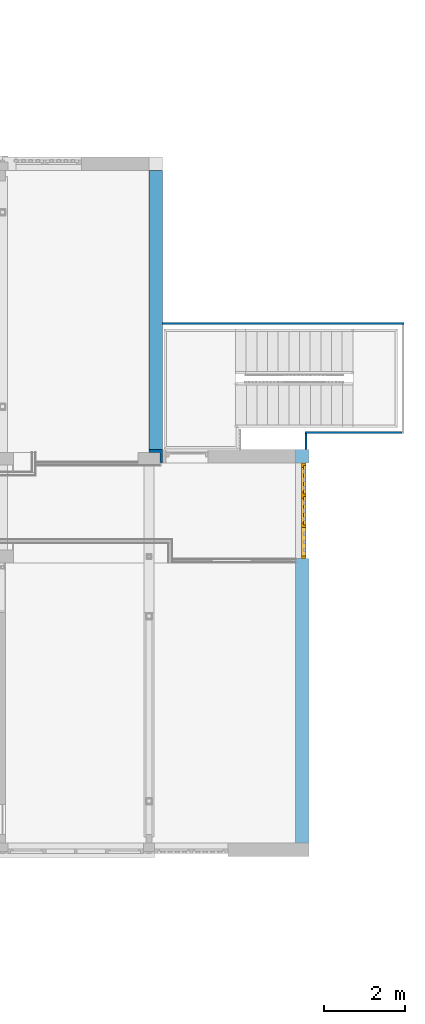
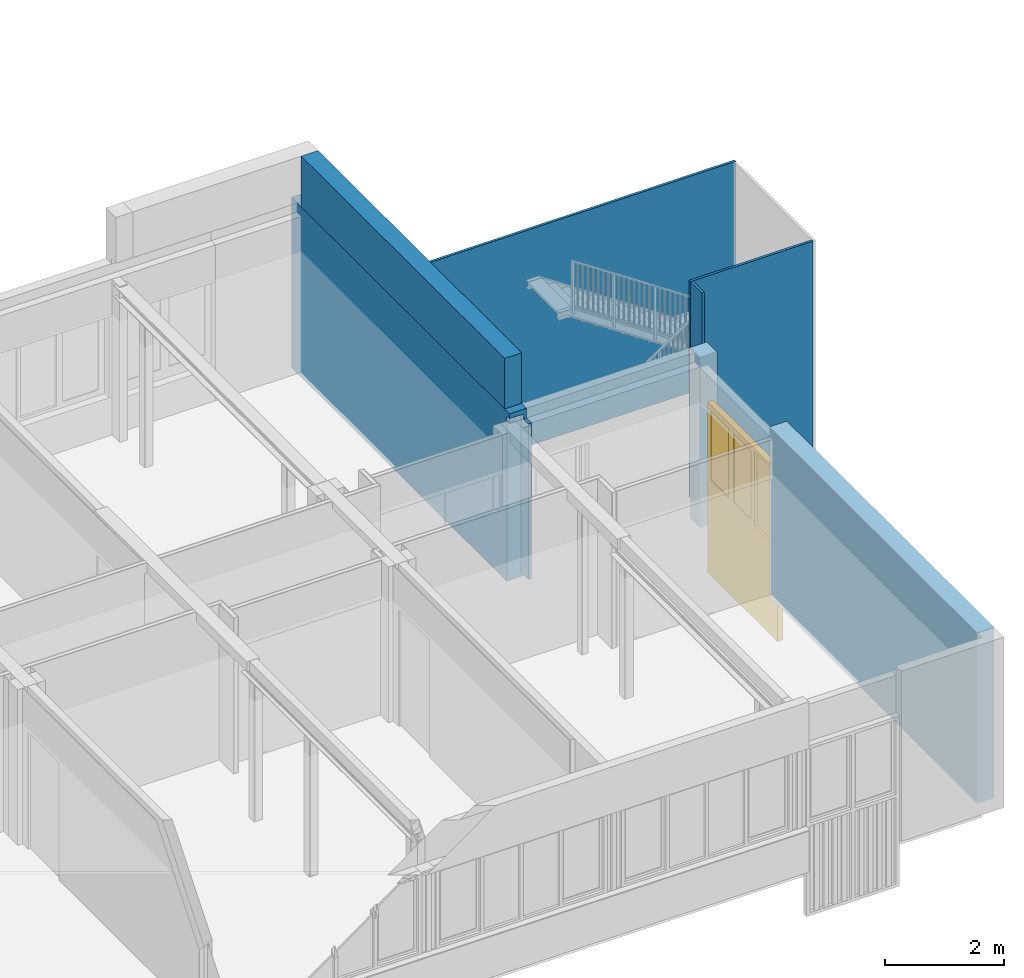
# One storey, part 68 of 117: 5 walls, 1 window, 1 opening, plus 1 element that does not belong to this part.
"""IFC2X3 building model written with IfcOpenShell, lengths in millimetres."""

import ifcopenshell
import ifcopenshell.guid

model = None  # the IFC model being written
_history = None  # IfcOwnerHistory: only IFC2X3 demands one
_inside = {}  # id of a spatial element -> (the spatial element, [elements in it])
_under = {}  # id of a project, library or spatial element -> (it, [spatial elements below it])
_declared = {}  # id of a project -> (the project, [libraries it declares])
_typed = {}  # id of a type object -> (the type object, [elements of that type])
_made_of = {}  # id of a material, layer set ... -> (it, [elements and type objects made of it])


def new_model(schema):
    """Start an empty IFC model of exactly this schema.

    Asked for "IFC4X3", IfcOpenShell would pick the latest addendum, in which some entities
    have other attributes; the version numbers below select the first issue.
    IFC2X3 requires an IfcOwnerHistory on every rooted entity: one is made here for all.
    """
    global model, _history
    if schema == "IFC4X3":
        model = ifcopenshell.file(schema_version=(4, 3, 0, 0))
    else:
        model = ifcopenshell.file(schema=schema)
    _inside.clear()
    _under.clear()
    _declared.clear()
    _typed.clear()
    _made_of.clear()
    _history = None
    if model.schema == "IFC2X3":
        org = make("IfcOrganization", Name="unknown")
        user = make(
            "IfcPersonAndOrganization",
            ThePerson=make("IfcPerson", FamilyName="unknown"),
            TheOrganization=org,
        )
        app = make(
            "IfcApplication",
            ApplicationDeveloper=org,
            Version="unknown",
            ApplicationFullName="unknown",
            ApplicationIdentifier="unknown",
        )
        _history = make(
            "IfcOwnerHistory",
            OwningUser=user,
            OwningApplication=app,
            ChangeAction="ADDED",
            CreationDate=0,
        )
    return model


def make(cls, **values):
    """One entity of the class cls with the attributes given. An attribute that is None is left unset."""
    return model.create_entity(
        cls, **{name: value for name, value in values.items() if value is not None}
    )


def entity(cls, *values):
    """Any entity or typed value of the class cls, its attributes in the order of the schema. None: left unset."""
    e = model.create_entity(cls)
    for i, value in enumerate(values):
        if value is not None:
            e[i] = value
    return e


def rooted(cls, **values):
    """An entity with a GlobalId (a new one), such as an element, a storey or a relation."""
    return make(cls, GlobalId=ifcopenshell.guid.new(), OwnerHistory=_history, **values)


def si_unit(unit_type, name, prefix=None):
    """IfcSIUnit, for example si_unit("LENGTHUNIT", "METRE", prefix="MILLI")."""
    return make("IfcSIUnit", UnitType=unit_type, Prefix=prefix, Name=name)


def converted_unit(unit_type, name, factor, base, dimensions=None, offset=None):
    """IfcConversionBasedUnit, such as the inch: factor (a typed value) times the base unit."""
    return make(
        "IfcConversionBasedUnit"
        if offset is None
        else "IfcConversionBasedUnitWithOffset",
        ConversionOffset=offset,
        Dimensions=None
        if dimensions is None
        else entity("IfcDimensionalExponents", *dimensions),
        UnitType=unit_type,
        Name=name,
        ConversionFactor=make(
            "IfcMeasureWithUnit", ValueComponent=factor, UnitComponent=base
        ),
    )


def derived_unit(unit_type, elements):
    """IfcDerivedUnit: a product of units, each with its exponent."""
    return make(
        "IfcDerivedUnit",
        Elements=[
            make("IfcDerivedUnitElement", Unit=unit, Exponent=power)
            for unit, power in elements
        ],
        UnitType=unit_type,
    )


def money_unit(currency):
    """IfcMonetaryUnit."""
    return make("IfcMonetaryUnit", Currency=currency)


def assignment(units):
    """IfcUnitAssignment: the units of a project."""
    return None if units is None else make("IfcUnitAssignment", Units=units)


def point(xyz):
    """IfcCartesianPoint."""
    return None if xyz is None else make("IfcCartesianPoint", Coordinates=xyz)


def direction(xyz):
    """IfcDirection."""
    return None if xyz is None else make("IfcDirection", DirectionRatios=xyz)


def frame(location, z_axis=None, x_axis=None):
    """IfcAxis2Placement3D, a coordinate frame: its origin and axes. An axis left out is left unset."""
    return make(
        "IfcAxis2Placement3D",
        Location=point(location),
        Axis=direction(z_axis),
        RefDirection=direction(x_axis),
    )


def origin_with_axes():
    """The frame at (0, 0, 0) with the z axis (0, 0, 1) and the x axis (1, 0, 0) written out."""
    return frame((0.0, 0.0, 0.0), z_axis=(0.0, 0.0, 1.0), x_axis=(1.0, 0.0, 0.0))


def place(relative_to, where):
    """IfcLocalPlacement: puts the frame where relative to a parent placement (None: the world)."""
    return make(
        "IfcLocalPlacement", PlacementRelTo=relative_to, RelativePlacement=where
    )


def context(
    kind, dimensions, precision=None, world=None, true_north=None, identifier=None
):
    """IfcGeometricRepresentationContext, for example the 3D "Model" context."""
    return make(
        "IfcGeometricRepresentationContext",
        ContextIdentifier=identifier,
        ContextType=kind,
        CoordinateSpaceDimension=dimensions,
        Precision=precision,
        WorldCoordinateSystem=world,
        TrueNorth=true_north,
    )


def subcontext(parent, identifier, kind, view, scale=None):
    """IfcGeometricRepresentationSubContext, for example "Body" below "Model"."""
    return make(
        "IfcGeometricRepresentationSubContext",
        ContextIdentifier=identifier,
        ContextType=kind,
        ParentContext=parent,
        TargetScale=scale,
        TargetView=view,
    )


def project(units=None, contexts=None):
    """IfcProject with its units and contexts."""
    return rooted(
        "IfcProject",
        Name="project",
        RepresentationContexts=contexts,
        UnitsInContext=assignment(units),
    )


def spatial(cls, under=None, at=None, **own):
    """A site, building, storey or space (cls), placed at a placement, below another one or the project."""
    s = rooted(cls, ObjectPlacement=at, **own)
    if under is not None:
        _under.setdefault(under.id(), (under, []))[1].append(s)
    return s


def faces_of(points, faces, orient=None, outer=None):
    """IfcFace entities. A face is a list of loops; a loop is a list of indices into points, from 0.

    orient and outer hold one flag for each loop. By default every Orientation is true, the
    first loop of a face is its IfcFaceOuterBound and the others are IfcFaceBound.
    """
    made = []
    for i, loops in enumerate(faces):
        bounds = []
        for j, loop in enumerate(loops):
            is_outer = j == 0 if outer is None else outer[i][j]
            bounds.append(
                make(
                    "IfcFaceOuterBound" if is_outer else "IfcFaceBound",
                    Bound=make("IfcPolyLoop", Polygon=[points[k] for k in loop]),
                    Orientation=True if orient is None else orient[i][j],
                )
            )
        made.append(make("IfcFace", Bounds=bounds))
    return made


def open_shell(faces, orient=None, outer=None):
    """The faces of one IfcOpenShell. surface_model builds it on its shared points."""
    return ("IfcOpenShell", faces, orient, outer)


def faceted_brep(points, faces, orient=None, outer=None, voids=None):
    """IfcFacetedBrep: a solid bounded by flat faces; with voids (closed shells), ...WithVoids."""
    shared = [point(p) for p in points]
    hull = make("IfcClosedShell", CfsFaces=faces_of(shared, faces, orient, outer))
    if voids is None:
        return make("IfcFacetedBrep", Outer=hull)
    return make(
        "IfcFacetedBrepWithVoids",
        Outer=hull,
        Voids=[
            make(cls, CfsFaces=faces_of(shared, fs, o, b)) for cls, fs, o, b in voids
        ],
    )


def surface_model(cls, points, shells):
    """IfcFaceBasedSurfaceModel or IfcShellBasedSurfaceModel (cls): surfaces that need not close."""
    shared = [point(p) for p in points]
    made = [make(c, CfsFaces=faces_of(shared, fs, o, b)) for c, fs, o, b in shells]
    if cls == "IfcFaceBasedSurfaceModel":
        return make(cls, FbsmFaces=made)
    return make(cls, SbsmBoundary=made)


def shape(context_of_items, identifier, shape_type, items):
    """IfcShapeRepresentation: the items that make up one representation, for example the "Body"."""
    return make(
        "IfcShapeRepresentation",
        ContextOfItems=context_of_items,
        RepresentationIdentifier=identifier,
        RepresentationType=shape_type,
        Items=items,
    )


def material(Name=None, Category=None):
    """IfcMaterial."""
    return make("IfcMaterial", Name=Name, Category=Category)


def made_of(thing, what):
    """Note that an element or type object is made of a material, layer set ...; save() writes the relation."""
    if what is not None:
        _made_of.setdefault(what.id(), (what, []))[1].append(thing)
    return thing


def type_object(cls, material=None, **own):
    """A type object (cls), such as IfcWallType, which elements share."""
    return made_of(rooted(cls, **own), material)


def element(
    cls,
    number,
    at=None,
    inside=None,
    cuts=None,
    type_object=None,
    material=None,
    context=None,
    identifier="Body",
    shape_type=None,
    held_by="IfcProductDefinitionShape",
    body=None,
    shapes=None,
    **own,
):
    """One element of the class cls, such as IfcWall. Its Tag is "e" and its number.

    at: its placement. inside: the storey or other place that contains it. cuts: it is an
    opening in that element (IfcRelVoidsElement). A single representation is given by context,
    identifier, shape_type and body (its items); several are given by shapes. held_by: the class
    of the entity that holds the representations. save() writes the other relations.
    """
    e = rooted(cls, Tag="e%d" % number, ObjectPlacement=at, **own)
    if body is not None:
        shapes = [shape(context, identifier, shape_type, body)]
    if shapes is not None:
        e.Representation = make(held_by, Representations=shapes)
    if inside is not None:
        _inside.setdefault(inside.id(), (inside, []))[1].append(e)
    if cuts is not None:
        rooted(
            "IfcRelVoidsElement", RelatingBuildingElement=cuts, RelatedOpeningElement=e
        )
    if type_object is not None:
        _typed.setdefault(type_object.id(), (type_object, []))[1].append(e)
    return made_of(e, material)


def fill(opening, filler):
    """IfcRelFillsElement: the door or window that sits in an opening."""
    return rooted(
        "IfcRelFillsElement",
        RelatingOpeningElement=opening,
        RelatedBuildingElement=filler,
    )


def aggregate(whole, parts):
    """IfcRelAggregates: a whole, such as a stair, and the parts it consists of."""
    return rooted("IfcRelAggregates", RelatingObject=whole, RelatedObjects=parts)


def save(model, path):
    """Write the relations noted so far, then the file.

    IfcRelAggregates (storeys below a building ...), IfcRelContainedInSpatialStructure (elements
    in a storey), IfcRelDefinesByType, IfcRelAssociatesMaterial and IfcRelDeclares: one each for
    every whole, place, type object, material and project.
    """
    for whole, parts in _under.values():
        aggregate(whole, parts)
    for where, things in _inside.values():
        rooted(
            "IfcRelContainedInSpatialStructure",
            RelatedElements=things,
            RelatingStructure=where,
        )
    for kind, things in _typed.values():
        rooted("IfcRelDefinesByType", RelatedObjects=things, RelatingType=kind)
    for what, things in _made_of.values():
        rooted("IfcRelAssociatesMaterial", RelatedObjects=things, RelatingMaterial=what)
    for by, libraries in _declared.values():
        rooted("IfcRelDeclares", RelatingContext=by, RelatedDefinitions=libraries)
    model.write(path)


model = new_model("IFC2X3")

# Units and contexts
model_context = context("Model", 3, precision=0.01, world=origin_with_axes(), true_north=direction((0.0, 1.0)))
body_context = subcontext(model_context, "Body", "Model", "MODEL_VIEW")
ifc_project = project(units=[si_unit("LENGTHUNIT", "METRE", prefix="MILLI"), si_unit("AREAUNIT", "SQUARE_METRE"), si_unit("VOLUMEUNIT", "CUBIC_METRE"), converted_unit("PLANEANGLEUNIT", "DEGREE", entity("IfcPlaneAngleMeasure", 0.0174532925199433), si_unit("PLANEANGLEUNIT", "RADIAN"), dimensions=[0, 0, 0, 0, 0, 0, 0]), money_unit("EUR"), converted_unit("TIMEUNIT", "Year", entity("IfcTimeMeasure", 31557600.0), si_unit("TIMEUNIT", "SECOND"), dimensions=[0, 0, 1, 0, 0, 0, 0]), si_unit("MASSUNIT", "GRAM", prefix="KILO"), si_unit("THERMODYNAMICTEMPERATUREUNIT", "DEGREE_CELSIUS"), si_unit("LUMINOUSINTENSITYUNIT", "LUMEN"), si_unit("ENERGYUNIT", "JOULE", prefix="MEGA"), derived_unit("THERMALCONDUCTANCEUNIT", [(si_unit("POWERUNIT", "WATT"), 1), (si_unit("LENGTHUNIT", "METRE"), -1), (si_unit("THERMODYNAMICTEMPERATUREUNIT", "KELVIN"), -1)]), derived_unit("SPECIFICHEATCAPACITYUNIT", [(si_unit("ENERGYUNIT", "JOULE"), 1), (si_unit("MASSUNIT", "GRAM", prefix="KILO"), -1), (si_unit("THERMODYNAMICTEMPERATUREUNIT", "KELVIN"), -1)]), derived_unit("MASSDENSITYUNIT", [(si_unit("MASSUNIT", "GRAM", prefix="KILO"), 1), (si_unit("VOLUMEUNIT", "CUBIC_METRE"), -1)])], contexts=[model_context])

# Site, building, storey
site_placement = place(None, origin_with_axes())
site = spatial("IfcSite", under=ifc_project, at=site_placement, Name="Site", CompositionType="ELEMENT")
building_placement = place(site_placement, origin_with_axes())
building = spatial("IfcBuilding", under=site, at=building_placement, Name="Naam gebouw", CompositionType="ELEMENT")
storey_placement = place(building_placement, frame((0.0, 0.0, 4150.0), z_axis=(0.0, 0.0, 1.0), x_axis=(1.0, 0.0, 0.0)))
storey = spatial("IfcBuildingStorey", under=building, at=storey_placement, Name="1e verdieping N", CompositionType="ELEMENT", Elevation=4150.0)

# Wall
ifc_material_1 = material(Name="ALG - CONSTRUCTIEF")
wall_type_1 = type_object("IfcWallType", Name="ALG - CONSTRUCTIEF 330", PredefinedType="NOTDEFINED")
wall_1_placement = place(storey_placement, frame((54330.0, 27505.9124251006, 3400.0), z_axis=(0.0, 0.0, 1.0), x_axis=(0.0, -1.0, 0.0)))
element("IfcWall", 1, at=wall_1_placement, inside=storey, type_object=wall_type_1, material=ifc_material_1, Name="_Wand-x", context=body_context, shape_type="Brep", body=[
    faceted_brep([(0.0, -329.9999999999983, 1039.999999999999), (6850.000000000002, -329.9999999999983, 1039.999999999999), (6850.000000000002, 0.0, 1039.999999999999), (0.0, 0.0, 1039.999999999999), (0.0, -329.9999999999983, 0.0), (6850.000000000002, -329.9999999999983, 0.0), (6850.000000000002, 0.0, 0.0), (0.0, 0.0, 0.0)], [[[0, 1, 2, 3]], [[4, 5, 1, 0]], [[6, 2, 1, 5]], [[3, 2, 6, 7]], [[7, 4, 0, 3]], [[7, 6, 5, 4]]]),
])

# Wall, opening, window
wall_2_placement = place(storey_placement, frame((57599.99999999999, 20655.9124251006, -99.99999999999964), z_axis=(0.0, 0.0, 1.0), x_axis=(0.0, -1.0, 0.0)))
wall_2 = element("IfcWall", 2, at=wall_2_placement, inside=storey, type_object=wall_type_1, material=ifc_material_1, Name="_Wand-x", context=body_context, shape_type="Brep", body=[
    faceted_brep([(2684.999999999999, 259.999999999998, 0.0), (2684.999999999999, 0.0, 0.0), (2684.999999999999, 0.0, 3500.0), (2684.999999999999, 259.999999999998, 3500.0), (2684.999999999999, 329.9999999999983, 3500.0), (2684.999999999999, 329.9999999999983, 0.0), (9664.999999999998, 329.9999999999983, 0.0), (9664.999999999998, 0.0, 0.0), (9664.999999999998, 0.0, 3500.0), (9664.999999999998, 329.9999999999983, 3500.0)], [[[0, 1, 2, 3, 4, 5]], [[1, 0, 5, 6, 7]], [[2, 1, 7, 8]], [[3, 2, 8, 9, 4]], [[4, 9, 6, 5]], [[6, 9, 8, 7]]]),
    faceted_brep([(330.0000000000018, 0.0, 3500.0), (330.0000000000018, 259.999999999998, 3500.0), (330.0000000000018, 329.9999999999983, 3500.0), (0.0, 329.9999999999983, 3500.0), (0.0, 0.0, 3500.0), (330.0000000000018, 0.0, 0.0), (330.0000000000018, 259.999999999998, 0.0), (330.0000000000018, 329.9999999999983, 0.0), (0.0, 329.9999999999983, 0.0), (0.0, 0.0, 0.0)], [[[0, 1, 2, 3, 4]], [[1, 0, 5, 6, 7, 2]], [[7, 8, 3, 2]], [[8, 9, 4, 3]], [[5, 0, 4, 9]], [[6, 5, 9, 8, 7]]]),
])
opening_placement = place(wall_2_placement, frame((1507.5, 0.0, -959.9999999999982), z_axis=(0.0, 0.0, 1.0), x_axis=(1.0, 0.0, 0.0)))
opening = element("IfcOpeningElement", 3, at=opening_placement, cuts=wall_2, Name="_Merk-039", context=body_context, shape_type="Brep", body=[
    faceted_brep([(-1177.499999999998, 259.999999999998, 0.0), (-1177.499999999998, 259.999999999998, 4500.0), (-1177.499999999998, 330.999999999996, 4500.0), (-1177.499999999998, 330.999999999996, 0.0), (-1177.499999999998, -0.9999999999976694, 0.0), (-1177.499999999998, -0.9999999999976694, 4500.0), (1177.499999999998, 259.999999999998, 4500.0), (1177.499999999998, 330.999999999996, 4500.0), (1177.499999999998, -0.9999999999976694, 4500.0), (1177.499999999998, 330.999999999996, 0.0), (1177.499999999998, 259.999999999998, 0.0), (1177.499999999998, -0.9999999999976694, 0.0)], [[[0, 1, 2, 3]], [[1, 0, 4, 5]], [[6, 7, 2, 1, 5, 8]], [[7, 9, 3, 2]], [[0, 3, 9, 10, 11, 4]], [[5, 4, 11, 8]], [[6, 10, 9, 7]], [[10, 6, 8, 11]]]),
])
window_style = type_object("IfcWindowStyle", Name="R3 bl ol 26", ConstructionType="NOTDEFINED", OperationType="USERDEFINED", ParameterTakesPrecedence=False, Sizeable=False)
window_placement = place(opening_placement, frame((1177.499999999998, 0.0, 0.0), z_axis=(0.0, 0.0, 1.0), x_axis=(-1.0, 0.0, 0.0)))
window = element("IfcWindow", 4, at=window_placement, inside=storey, type_object=window_style, Name="_Merk-039", ObjectType="WINDOW", OverallHeight=3500.0, OverallWidth=2355.0, context=body_context, shape_type="SurfaceModel", body=[
    faceted_brep([(2304.999999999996, -146.0000000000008, 3433.0), (2304.999999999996, -200.0000000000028, 3433.0), (2287.999999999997, -200.0000000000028, 3433.0), (2287.999999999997, -260.0000000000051, 3433.0), (2354.999999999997, -260.0000000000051, 3433.0), (2354.999999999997, -146.0000000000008, 3433.0), (2304.999999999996, -146.0000000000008, 1893.000000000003), (2304.999999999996, -200.0000000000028, 1893.000000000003), (2287.999999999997, -200.0000000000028, 1910.000000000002), (2287.999999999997, -200.0000000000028, 1893.000000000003), (2287.999999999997, -259.999999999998, 1910.000000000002), (2287.999999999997, -259.999999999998, 1843.000000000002), (2287.999999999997, -259.999999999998, 66.99999999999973), (2354.999999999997, -259.999999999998, 66.99999999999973), (2354.999999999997, -146.0000000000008, 67.00000000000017), (2287.999999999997, -146.0000000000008, 67.00000000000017), (2287.999999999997, -146.0000000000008, 1843.000000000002), (2287.999999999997, -146.0000000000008, 1893.000000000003)], [[[0, 1, 2, 3, 4, 5]], [[1, 0, 6, 7]], [[8, 2, 1, 7, 9]], [[2, 8, 10, 3]], [[10, 11, 12, 13, 4, 3]], [[5, 4, 13, 14]], [[6, 0, 5, 14, 15, 16, 17]], [[6, 17, 9, 7]], [[9, 17, 16, 11, 10, 8]], [[15, 12, 11, 16]], [[14, 13, 12, 15]]]),
    faceted_brep([(829.6666666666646, -200.0000000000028, 3433.0), (812.6666666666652, -200.0000000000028, 3433.0), (812.6666666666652, -146.0000000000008, 3433.0), (762.6666666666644, -146.0000000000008, 3433.0), (762.6666666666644, -259.999999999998, 3433.0), (829.6666666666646, -259.999999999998, 3433.0), (829.6666666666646, -200.0000000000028, 1910.000000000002), (829.6666666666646, -200.0000000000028, 1893.000000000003), (812.6666666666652, -200.0000000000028, 1893.000000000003), (812.6666666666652, -146.0000000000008, 1893.000000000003), (829.6666666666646, -146.0000000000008, 1893.000000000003), (829.6666666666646, -146.0000000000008, 1843.000000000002), (829.6666666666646, -146.0000000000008, 67.00000000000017), (762.6666666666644, -146.0000000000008, 67.00000000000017), (762.6666666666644, -146.0000000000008, 1843.000000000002), (762.6666666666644, -146.0000000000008, 1910.000000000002), (762.6666666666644, -259.999999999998, 1910.000000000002), (829.6666666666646, -259.999999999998, 1843.000000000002), (829.6666666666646, -259.999999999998, 1910.000000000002), (762.6666666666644, -259.999999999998, 1843.000000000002), (762.6666666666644, -259.999999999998, 66.99999999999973), (829.6666666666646, -259.999999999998, 66.99999999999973)], [[[0, 1, 2, 3, 4, 5]], [[1, 0, 6, 7, 8]], [[9, 2, 1, 8]], [[9, 10, 11, 12, 13, 14, 15, 3, 2]], [[15, 16, 4, 3]], [[17, 18, 5, 4, 16, 19, 20, 21]], [[6, 0, 5, 18]], [[7, 6, 18, 17, 11, 10]], [[10, 9, 8, 7]], [[11, 17, 21, 12]], [[12, 21, 20, 13]], [[13, 20, 19, 14]], [[14, 19, 16, 15]]]),
    faceted_brep([(1592.333333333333, -200.0000000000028, 3433.0), (1575.333333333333, -200.0000000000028, 3433.0), (1575.333333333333, -146.0000000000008, 3433.0), (1542.333333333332, -146.0000000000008, 3433.0), (1542.333333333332, -200.0000000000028, 3433.0), (1525.333333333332, -200.0000000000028, 3433.0), (1525.333333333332, -259.999999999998, 3433.0), (1592.333333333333, -259.999999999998, 3433.0), (1592.333333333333, -200.0000000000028, 1910.000000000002), (1592.333333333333, -200.0000000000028, 1893.000000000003), (1575.333333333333, -200.0000000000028, 1893.000000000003), (1575.333333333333, -146.0000000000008, 1893.000000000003), (1592.333333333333, -146.0000000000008, 1893.000000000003), (1592.333333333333, -146.0000000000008, 1843.000000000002), (1592.333333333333, -146.0000000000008, 67.00000000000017), (1525.333333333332, -146.0000000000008, 67.00000000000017), (1525.333333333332, -146.0000000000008, 1843.000000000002), (1525.333333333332, -146.0000000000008, 1893.000000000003), (1542.333333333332, -146.0000000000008, 1893.000000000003), (1542.333333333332, -200.0000000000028, 1893.000000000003), (1525.333333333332, -200.0000000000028, 1910.000000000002), (1525.333333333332, -200.0000000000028, 1893.000000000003), (1525.333333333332, -259.999999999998, 1910.000000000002), (1525.333333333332, -259.999999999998, 1843.000000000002), (1525.333333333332, -259.999999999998, 66.99999999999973), (1592.333333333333, -259.999999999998, 66.99999999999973), (1592.333333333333, -259.999999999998, 1843.000000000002), (1592.333333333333, -259.999999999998, 1910.000000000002)], [[[0, 1, 2, 3, 4, 5, 6, 7]], [[1, 0, 8, 9, 10]], [[11, 2, 1, 10]], [[11, 12, 13, 14, 15, 16, 17, 18, 3, 2]], [[4, 3, 18, 19]], [[20, 5, 4, 19, 21]], [[5, 20, 22, 6]], [[7, 6, 22, 23, 24, 25, 26, 27]], [[8, 0, 7, 27]], [[9, 8, 27, 26, 13, 12]], [[12, 11, 10, 9]], [[13, 26, 25, 14]], [[14, 25, 24, 15]], [[15, 24, 23, 16]], [[21, 17, 16, 23, 22, 20]], [[18, 17, 21, 19]]]),
    faceted_brep([(1525.333333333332, -200.0000000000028, 1910.000000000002), (829.6666666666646, -200.0000000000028, 1910.000000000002), (829.6666666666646, -259.999999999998, 1910.000000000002), (1525.333333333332, -259.999999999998, 1910.000000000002), (829.6666666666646, -200.0000000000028, 1893.000000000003), (1525.333333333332, -200.0000000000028, 1893.000000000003), (829.6666666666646, -146.0000000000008, 1893.000000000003), (829.6666666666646, -146.0000000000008, 1843.000000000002), (829.6666666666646, -259.999999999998, 1843.000000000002), (1525.333333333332, -259.999999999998, 1843.000000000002), (1525.333333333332, -146.0000000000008, 1843.000000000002), (1525.333333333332, -146.0000000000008, 1893.000000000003)], [[[0, 1, 2, 3]], [[4, 1, 0, 5]], [[4, 6, 7, 8, 2, 1]], [[2, 8, 9, 3]], [[5, 0, 3, 9, 10, 11]], [[11, 6, 4, 5]], [[6, 11, 10, 7]], [[10, 9, 8, 7]]]),
    faceted_brep([(2287.999999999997, -200.0000000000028, 1910.000000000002), (1592.333333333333, -200.0000000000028, 1910.000000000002), (1592.333333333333, -259.999999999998, 1910.000000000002), (2287.999999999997, -259.999999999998, 1910.000000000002), (1592.333333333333, -200.0000000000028, 1893.000000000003), (2287.999999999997, -200.0000000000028, 1893.000000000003), (1592.333333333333, -146.0000000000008, 1893.000000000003), (1592.333333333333, -146.0000000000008, 1843.000000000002), (1592.333333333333, -259.999999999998, 1843.000000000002), (2287.999999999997, -259.999999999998, 1843.000000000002), (2287.999999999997, -146.0000000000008, 1843.000000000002), (2287.999999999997, -146.0000000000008, 1893.000000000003)], [[[0, 1, 2, 3]], [[4, 1, 0, 5]], [[4, 6, 7, 8, 2, 1]], [[9, 3, 2, 8]], [[5, 0, 3, 9, 10, 11]], [[11, 6, 4, 5]], [[6, 11, 10, 7]], [[10, 9, 8, 7]]]),
    faceted_brep([(2304.999999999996, -146.0000000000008, 3433.0), (2304.999999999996, -146.0000000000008, 3450.0), (1575.333333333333, -146.0000000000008, 3450.0), (1575.333333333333, -146.0000000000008, 3433.0), (1542.333333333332, -146.0000000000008, 3433.0), (1542.333333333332, -146.0000000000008, 3450.0), (812.6666666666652, -146.0000000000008, 3450.0), (812.6666666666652, -146.0000000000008, 3433.0), (762.6666666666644, -146.0000000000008, 3433.0), (67.00000000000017, -146.0000000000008, 3433.0), (0.0, -146.0000000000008, 3433.0), (0.0, -146.0000000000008, 3500.0), (2354.999999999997, -146.0000000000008, 3500.0), (2354.999999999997, -146.0000000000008, 3433.0), (2304.999999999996, -200.0000000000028, 3433.0), (2304.999999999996, -200.0000000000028, 3450.0), (1575.333333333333, -200.0000000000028, 3450.0), (1575.333333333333, -200.0000000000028, 3433.0), (1592.333333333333, -200.0000000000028, 3433.0), (1592.333333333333, -259.999999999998, 3433.0), (1525.333333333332, -259.999999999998, 3433.0), (1525.333333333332, -200.0000000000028, 3433.0), (1542.333333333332, -200.0000000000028, 3433.0), (1542.333333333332, -200.0000000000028, 3450.0), (812.6666666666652, -200.0000000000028, 3450.0), (812.6666666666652, -200.0000000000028, 3433.0), (829.6666666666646, -200.0000000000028, 3433.0), (829.6666666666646, -259.999999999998, 3433.0), (762.6666666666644, -259.999999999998, 3433.0), (67.00000000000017, -259.999999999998, 3433.0), (0.0, -259.999999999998, 3433.0), (0.0, -259.999999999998, 3500.0), (2354.999999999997, -260.0000000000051, 3500.0), (2354.999999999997, -260.0000000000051, 3433.0), (2287.999999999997, -260.0000000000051, 3433.0), (2287.999999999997, -200.0000000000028, 3433.0)], [[[0, 1, 2, 3, 4, 5, 6, 7, 8, 9, 10, 11, 12, 13]], [[1, 0, 14, 15]], [[2, 1, 15, 16]], [[3, 2, 16, 17]], [[17, 18, 19, 20, 21, 22, 4, 3]], [[5, 4, 22, 23]], [[6, 5, 23, 24]], [[7, 6, 24, 25]], [[25, 26, 27, 28, 8, 7]], [[8, 28, 29, 9]], [[9, 29, 30, 10]], [[10, 30, 31, 11]], [[11, 31, 32, 12]], [[12, 32, 33, 13]], [[14, 0, 13, 33, 34, 35]], [[18, 17, 16, 15, 14, 35]], [[18, 35, 34, 19]], [[20, 19, 34, 33, 32, 31, 30, 29, 28, 27]], [[26, 21, 20, 27]], [[26, 25, 24, 23, 22, 21]]]),
    faceted_brep([(67.00000000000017, -259.999999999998, 67.00000000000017), (0.0, -259.999999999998, 67.00000000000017), (0.0, -146.0000000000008, 67.00000000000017), (67.00000000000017, -146.0000000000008, 67.00000000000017), (67.00000000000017, -259.999999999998, 1843.000000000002), (67.00000000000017, -259.999999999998, 1910.000000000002), (67.00000000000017, -259.999999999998, 3433.0), (0.0, -259.999999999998, 3433.0), (0.0, -146.0000000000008, 3433.0), (67.00000000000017, -146.0000000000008, 3433.0), (67.00000000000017, -146.0000000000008, 1910.000000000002), (67.00000000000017, -146.0000000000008, 1843.000000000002)], [[[0, 1, 2, 3]], [[0, 4, 5, 6, 7, 1]], [[1, 7, 8, 2]], [[3, 2, 8, 9, 10, 11]], [[4, 0, 3, 11]], [[5, 4, 11, 10]], [[6, 5, 10, 9]], [[7, 6, 9, 8]]]),
    faceted_brep([(762.6666666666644, -259.999999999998, 1910.000000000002), (762.6666666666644, -259.999999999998, 1843.000000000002), (762.6666666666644, -146.0000000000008, 1843.000000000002), (762.6666666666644, -146.0000000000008, 1910.000000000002), (67.00000000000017, -259.999999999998, 1910.000000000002), (67.00000000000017, -259.999999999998, 1843.000000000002), (67.00000000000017, -146.0000000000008, 1843.000000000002), (67.00000000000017, -146.0000000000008, 1910.000000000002)], [[[0, 1, 2, 3]], [[0, 4, 5, 1]], [[1, 5, 6, 2]], [[3, 2, 6, 7]], [[4, 0, 3, 7]], [[5, 4, 7, 6]]]),
    faceted_brep([(2287.999999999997, -259.999999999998, 67.00000000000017), (2354.999999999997, -259.999999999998, 67.00000000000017), (2354.999999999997, -146.0000000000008, 67.00000000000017), (2287.999999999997, -146.0000000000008, 67.00000000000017), (1592.333333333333, -259.999999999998, 67.00000000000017), (1525.333333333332, -259.999999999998, 67.00000000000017), (829.6666666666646, -259.999999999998, 67.00000000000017), (762.6666666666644, -259.999999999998, 67.00000000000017), (67.00000000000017, -259.999999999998, 67.00000000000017), (0.0, -259.999999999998, 67.00000000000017), (0.0, -259.999999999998, 0.0), (2354.999999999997, -259.999999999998, 0.0), (2354.999999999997, -146.0000000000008, 0.0), (0.0, -146.0000000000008, 0.0), (0.0, -146.0000000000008, 67.00000000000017), (67.00000000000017, -146.0000000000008, 67.00000000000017), (762.6666666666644, -146.0000000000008, 67.00000000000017), (829.6666666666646, -146.0000000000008, 67.00000000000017), (1525.333333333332, -146.0000000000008, 67.00000000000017), (1592.333333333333, -146.0000000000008, 67.00000000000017)], [[[0, 1, 2, 3]], [[0, 4, 5, 6, 7, 8, 9, 10, 11, 1]], [[1, 11, 12, 2]], [[3, 2, 12, 13, 14, 15, 16, 17, 18, 19]], [[4, 0, 3, 19]], [[5, 4, 19, 18]], [[6, 5, 18, 17]], [[7, 6, 17, 16]], [[8, 7, 16, 15]], [[9, 8, 15, 14]], [[10, 9, 14, 13]], [[11, 10, 13, 12]]]),
    faceted_brep([(2237.999999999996, -200.0000000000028, 3383.0), (2304.999999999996, -200.0000000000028, 3383.0), (2304.999999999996, -146.0000000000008, 3383.0), (2237.999999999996, -146.0000000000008, 3383.0), (2237.999999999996, -200.0000000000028, 1960.000000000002), (2304.999999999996, -200.0000000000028, 1960.000000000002), (2304.999999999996, -146.0000000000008, 1960.000000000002), (2237.999999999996, -146.0000000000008, 1960.000000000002)], [[[0, 1, 2, 3]], [[0, 4, 5, 1]], [[1, 5, 6, 2]], [[3, 2, 6, 7]], [[4, 0, 3, 7]], [[5, 4, 7, 6]]]),
    faceted_brep([(1642.333333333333, -200.0000000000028, 1960.000000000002), (1575.333333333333, -200.0000000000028, 1960.000000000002), (1575.333333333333, -146.0000000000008, 1960.000000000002), (1642.333333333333, -146.0000000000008, 1960.000000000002), (1642.333333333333, -200.0000000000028, 3383.0), (1575.333333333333, -200.0000000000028, 3383.0), (1575.333333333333, -146.0000000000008, 3383.0), (1642.333333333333, -146.0000000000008, 3383.0)], [[[0, 1, 2, 3]], [[0, 4, 5, 1]], [[1, 5, 6, 2]], [[3, 2, 6, 7]], [[4, 0, 3, 7]], [[5, 4, 7, 6]]]),
    faceted_brep([(1575.333333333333, -200.0000000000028, 1893.000000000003), (1575.333333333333, -200.0000000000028, 1960.000000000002), (1575.333333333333, -146.0000000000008, 1960.000000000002), (1575.333333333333, -146.0000000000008, 1893.000000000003), (2304.999999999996, -200.0000000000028, 1893.000000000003), (2304.999999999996, -200.0000000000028, 1960.000000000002), (2237.999999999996, -200.0000000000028, 1960.000000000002), (1642.333333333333, -200.0000000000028, 1960.000000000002), (1642.333333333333, -146.0000000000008, 1960.000000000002), (2237.999999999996, -146.0000000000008, 1960.000000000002), (2304.999999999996, -146.0000000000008, 1960.000000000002), (2304.999999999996, -146.0000000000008, 1893.000000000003)], [[[0, 1, 2, 3]], [[0, 4, 5, 6, 7, 1]], [[1, 7, 8, 2]], [[3, 2, 8, 9, 10, 11]], [[4, 0, 3, 11]], [[5, 4, 11, 10]], [[6, 5, 10, 9]], [[7, 6, 9, 8]]]),
    faceted_brep([(2304.999999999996, -200.0000000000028, 3450.0), (2304.999999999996, -200.0000000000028, 3383.0), (2304.999999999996, -146.0000000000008, 3383.0), (2304.999999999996, -146.0000000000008, 3450.0), (1575.333333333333, -200.0000000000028, 3450.0), (1575.333333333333, -200.0000000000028, 3383.0), (1642.333333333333, -200.0000000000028, 3383.0), (2237.999999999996, -200.0000000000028, 3383.0), (2237.999999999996, -146.0000000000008, 3383.0), (1642.333333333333, -146.0000000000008, 3383.0), (1575.333333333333, -146.0000000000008, 3383.0), (1575.333333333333, -146.0000000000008, 3450.0)], [[[0, 1, 2, 3]], [[0, 4, 5, 6, 7, 1]], [[1, 7, 8, 2]], [[3, 2, 8, 9, 10, 11]], [[4, 0, 3, 11]], [[5, 4, 11, 10]], [[6, 5, 10, 9]], [[7, 6, 9, 8]]]),
    surface_model("IfcShellBasedSurfaceModel", [(2237.999999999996, -182.9999999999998, 1960.000000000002), (2237.999999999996, -182.9999999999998, 3383.0), (1642.333333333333, -182.9999999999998, 3383.0), (1642.333333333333, -182.9999999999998, 1960.000000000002)], [open_shell([[[0, 1, 2, 3]]])]),
    surface_model("IfcShellBasedSurfaceModel", [(2237.999999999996, -163.0000000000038, 1960.000000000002), (1642.333333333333, -163.0000000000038, 1960.000000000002), (1642.333333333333, -163.0000000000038, 3383.0), (2237.999999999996, -163.0000000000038, 3383.0)], [open_shell([[[0, 1, 2, 3]]])]),
    faceted_brep([(1475.333333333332, -200.0000000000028, 3383.0), (1542.333333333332, -200.0000000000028, 3383.0), (1542.333333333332, -146.0000000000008, 3383.0), (1475.333333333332, -146.0000000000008, 3383.0), (1475.333333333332, -200.0000000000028, 1960.000000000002), (1542.333333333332, -200.0000000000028, 1960.000000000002), (1542.333333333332, -146.0000000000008, 1960.000000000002), (1475.333333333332, -146.0000000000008, 1960.000000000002)], [[[0, 1, 2, 3]], [[0, 4, 5, 1]], [[1, 5, 6, 2]], [[3, 2, 6, 7]], [[4, 0, 3, 7]], [[5, 4, 7, 6]]]),
    faceted_brep([(879.6666666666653, -200.0000000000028, 1960.000000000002), (812.6666666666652, -200.0000000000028, 1960.000000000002), (812.6666666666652, -146.0000000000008, 1960.000000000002), (879.6666666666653, -146.0000000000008, 1960.000000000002), (879.6666666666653, -200.0000000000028, 3383.0), (812.6666666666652, -200.0000000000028, 3383.0), (812.6666666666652, -146.0000000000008, 3383.0), (879.6666666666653, -146.0000000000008, 3383.0)], [[[0, 1, 2, 3]], [[0, 4, 5, 1]], [[1, 5, 6, 2]], [[3, 2, 6, 7]], [[4, 0, 3, 7]], [[5, 4, 7, 6]]]),
    faceted_brep([(812.6666666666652, -200.0000000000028, 1893.000000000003), (812.6666666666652, -200.0000000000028, 1960.000000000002), (812.6666666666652, -146.0000000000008, 1960.000000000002), (812.6666666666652, -146.0000000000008, 1893.000000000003), (1542.333333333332, -200.0000000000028, 1893.000000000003), (1542.333333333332, -200.0000000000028, 1960.000000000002), (1475.333333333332, -200.0000000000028, 1960.000000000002), (879.6666666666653, -200.0000000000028, 1960.000000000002), (879.6666666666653, -146.0000000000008, 1960.000000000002), (1475.333333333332, -146.0000000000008, 1960.000000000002), (1542.333333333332, -146.0000000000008, 1960.000000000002), (1542.333333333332, -146.0000000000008, 1893.000000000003)], [[[0, 1, 2, 3]], [[0, 4, 5, 6, 7, 1]], [[1, 7, 8, 2]], [[3, 2, 8, 9, 10, 11]], [[4, 0, 3, 11]], [[5, 4, 11, 10]], [[6, 5, 10, 9]], [[7, 6, 9, 8]]]),
    faceted_brep([(1542.333333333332, -200.0000000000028, 3450.0), (1542.333333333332, -200.0000000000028, 3383.0), (1542.333333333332, -146.0000000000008, 3383.0), (1542.333333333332, -146.0000000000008, 3450.0), (812.6666666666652, -200.0000000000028, 3450.0), (812.6666666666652, -200.0000000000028, 3383.0), (879.6666666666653, -200.0000000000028, 3383.0), (1475.333333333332, -200.0000000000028, 3383.0), (1475.333333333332, -146.0000000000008, 3383.0), (879.6666666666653, -146.0000000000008, 3383.0), (812.6666666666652, -146.0000000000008, 3383.0), (812.6666666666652, -146.0000000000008, 3450.0)], [[[0, 1, 2, 3]], [[0, 4, 5, 6, 7, 1]], [[1, 7, 8, 2]], [[3, 2, 8, 9, 10, 11]], [[4, 0, 3, 11]], [[5, 4, 11, 10]], [[6, 5, 10, 9]], [[7, 6, 9, 8]]]),
    surface_model("IfcShellBasedSurfaceModel", [(1475.333333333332, -182.9999999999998, 1960.000000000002), (1475.333333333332, -182.9999999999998, 3383.0), (879.6666666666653, -182.9999999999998, 3383.0), (879.6666666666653, -182.9999999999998, 1960.000000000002)], [open_shell([[[0, 1, 2, 3]]])]),
    surface_model("IfcShellBasedSurfaceModel", [(1475.333333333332, -163.0000000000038, 1960.000000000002), (879.6666666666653, -163.0000000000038, 1960.000000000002), (879.6666666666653, -163.0000000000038, 3383.0), (1475.333333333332, -163.0000000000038, 3383.0)], [open_shell([[[0, 1, 2, 3]]])]),
    surface_model("IfcShellBasedSurfaceModel", [(762.6666666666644, -210.0000000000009, 1910.000000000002), (762.6666666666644, -210.0000000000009, 3433.0), (67.00000000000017, -210.0000000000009, 3433.0), (67.00000000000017, -210.0000000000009, 1910.000000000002)], [open_shell([[[0, 1, 2, 3]]])]),
    surface_model("IfcShellBasedSurfaceModel", [(762.6666666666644, -189.9999999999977, 1910.000000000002), (67.00000000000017, -189.9999999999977, 1910.000000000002), (67.00000000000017, -189.9999999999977, 3433.0), (762.6666666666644, -190.0000000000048, 3433.0)], [open_shell([[[0, 1, 2, 3]]])]),
    faceted_brep([(2287.999999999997, -200.0000000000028, 67.00000000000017), (1592.333333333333, -200.0000000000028, 67.00000000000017), (1592.333333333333, -146.0000000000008, 67.00000000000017), (2287.999999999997, -146.0000000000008, 67.00000000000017), (2287.999999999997, -200.0000000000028, 1843.000000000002), (1592.333333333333, -200.0000000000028, 1843.000000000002), (1592.333333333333, -146.0000000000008, 1843.000000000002), (2287.999999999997, -146.0000000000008, 1843.000000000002)], [[[0, 1, 2, 3]], [[0, 4, 5, 1]], [[1, 5, 6, 2]], [[3, 2, 6, 7]], [[4, 0, 3, 7]], [[5, 4, 7, 6]]]),
    faceted_brep([(1525.333333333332, -200.0000000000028, 67.00000000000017), (829.6666666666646, -200.0000000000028, 67.00000000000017), (829.6666666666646, -146.0000000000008, 67.00000000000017), (1525.333333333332, -146.0000000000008, 67.00000000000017), (1525.333333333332, -200.0000000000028, 1843.000000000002), (829.6666666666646, -200.0000000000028, 1843.000000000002), (829.6666666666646, -146.0000000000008, 1843.000000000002), (1525.333333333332, -146.0000000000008, 1843.000000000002)], [[[0, 1, 2, 3]], [[0, 4, 5, 1]], [[1, 5, 6, 2]], [[3, 2, 6, 7]], [[4, 0, 3, 7]], [[5, 4, 7, 6]]]),
    faceted_brep([(762.6666666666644, -200.0000000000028, 67.00000000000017), (67.00000000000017, -200.0000000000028, 67.00000000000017), (67.00000000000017, -146.0000000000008, 67.00000000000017), (762.6666666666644, -146.0000000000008, 67.00000000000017), (762.6666666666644, -200.0000000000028, 1843.000000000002), (67.00000000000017, -200.0000000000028, 1843.000000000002), (67.00000000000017, -146.0000000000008, 1843.000000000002), (762.6666666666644, -146.0000000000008, 1843.000000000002)], [[[0, 1, 2, 3]], [[0, 4, 5, 1]], [[1, 5, 6, 2]], [[3, 2, 6, 7]], [[4, 0, 3, 7]], [[5, 4, 7, 6]]]),
])
fill(opening, window)

# Walls
wall_3_placement = place(storey_placement, frame((54000.0, 27505.91242510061, -99.99999999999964), z_axis=(0.0, 0.0, 1.0), x_axis=(0.0, -1.0, 0.0)))
element("IfcWall", 5, at=wall_3_placement, inside=storey, type_object=wall_type_1, material=ifc_material_1, Name="_Wand-x", context=body_context, shape_type="Brep", body=[
    faceted_brep([(7180.000000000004, 270.0000000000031, 99.99999999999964), (6925.000000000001, 270.0000000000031, 99.99999999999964), (6925.000000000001, 0.0, 99.99999999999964), (6914.999999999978, 0.0, 99.99999999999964), (6914.999999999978, 329.9999999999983, 99.99999999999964), (7180.000000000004, 329.9999999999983, 99.99999999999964), (6925.000000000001, 270.0000000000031, 3400.0), (7180.000000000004, 270.0000000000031, 3300.0), (7014.48249116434, 270.0000000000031, 3300.0), (7014.48249116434, 270.0000000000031, 3400.0), (6925.000000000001, 0.0, 3400.0), (7014.48249116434, 0.0, 3400.0), (7014.48249116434, 0.0, 3500.0), (-329.9999999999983, 0.0, 3500.0), (-329.9999999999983, 0.0, 0.0), (6914.999999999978, 0.0, 0.0), (6914.999999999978, 329.9999999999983, 0.0), (7014.48249116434, 329.9999999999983, 3300.0), (7180.000000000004, 329.9999999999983, 3300.0), (-329.9999999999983, 329.9999999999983, 0.0), (-329.9999999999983, 329.9999999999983, 3500.0), (7014.48249116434, 329.9999999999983, 3500.0)], [[[0, 1, 2, 3, 4, 5]], [[6, 1, 0, 7, 8, 9]], [[10, 2, 1, 6]], [[2, 10, 11, 12, 13, 14, 15, 3]], [[4, 3, 15, 16]], [[17, 18, 5, 4, 16, 19, 20, 21]], [[18, 7, 0, 5]], [[17, 8, 7, 18]], [[11, 9, 8, 17, 21, 12]], [[6, 9, 11, 10]], [[21, 20, 13, 12]], [[19, 14, 13, 20]], [[15, 14, 19, 16]]]),
])
ifc_material_2 = material(Name="ALG - ONTWERPWAND")
wall_type_2 = type_object("IfcWallType", Name="ALG - ONTWERPWAND 50", PredefinedType="NOTDEFINED")
wall_4_placement = place(storey_placement, frame((57829.99999999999, 21090.9124251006, 0.0), z_axis=(0.0, 0.0, 1.0), x_axis=(1.0, 0.0, 0.0)))
element("IfcWall", 6, at=wall_4_placement, inside=storey, type_object=wall_type_2, material=ifc_material_2, Name="_Wand-x", context=body_context, shape_type="Brep", body=[
    faceted_brep([(2384.999999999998, -50.00000000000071, 4439.999999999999), (2384.999999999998, 0.0, 4439.999999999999), (0.0, 0.0, 4439.999999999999), (0.0, -50.00000000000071, 4439.999999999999), (2384.999999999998, -50.00000000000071, 0.0), (2384.999999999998, 0.0, 0.0), (0.0, 0.0, 0.0), (0.0, -50.00000000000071, 0.0)], [[[0, 1, 2, 3]], [[1, 0, 4, 5]], [[1, 5, 6, 2]], [[7, 3, 2, 6]], [[4, 0, 3, 7]], [[5, 4, 7, 6]]]),
])
wall_5_placement = place(storey_placement, frame((60214.99999999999, 23720.9124251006, 0.0), z_axis=(0.0, 0.0, 1.0), x_axis=(-1.0, 0.0, 0.0)))
element("IfcWall", 7, at=wall_5_placement, inside=storey, type_object=wall_type_2, material=ifc_material_2, Name="_Wand-x", context=body_context, shape_type="Brep", body=[
    faceted_brep([(5864.999999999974, -50.00000000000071, 4428.082903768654), (5864.999999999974, -50.00000000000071, 4425.773502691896), (5854.999999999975, -50.00000000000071, 4420.0), (5854.999999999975, -50.00000000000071, 4439.999999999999), (-49.99999999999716, -50.00000000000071, 4439.999999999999), (-49.99999999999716, -50.00000000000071, 0.0), (5884.999999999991, -50.00000000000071, 0.0), (5884.999999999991, -50.00000000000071, 3400.0), (5884.999999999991, -50.00000000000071, 4439.999999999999), (5866.517540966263, -50.00000000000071, 4439.999999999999), (5856.999999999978, -50.00000000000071, 4438.321800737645), (5856.999999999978, -50.00000000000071, 4423.464101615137), (5864.999999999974, 0.0, 4425.773502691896), (5864.999999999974, 0.0, 4428.082903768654), (5854.999999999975, 0.0, 4420.0), (5854.999999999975, 0.0, 4439.999999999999), (-49.99999999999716, 0.0, 4439.999999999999), (-49.99999999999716, 0.0, 0.0), (5884.999999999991, 0.0, 0.0), (5884.999999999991, 0.0, 3400.0), (5884.999999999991, 0.0, 4439.999999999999), (5866.517540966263, 0.0, 4439.999999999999), (5856.999999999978, 0.0, 4438.321800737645), (5856.999999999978, 0.0, 4423.464101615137)], [[[0, 1, 2, 3, 4, 5, 6, 7, 8, 9, 10, 11]], [[12, 1, 0, 13]], [[14, 2, 1, 12]], [[15, 3, 2, 14]], [[4, 3, 15, 16]], [[16, 17, 5, 4]], [[6, 5, 17, 18]], [[6, 18, 19, 20, 8, 7]], [[20, 21, 9, 8]], [[22, 10, 9, 21]], [[23, 11, 10, 22]], [[13, 0, 11, 23]], [[23, 22, 21, 20, 19, 18, 17, 16, 15, 14, 12, 13]]]),
])
wall_6_placement = place(storey_placement, frame((57829.99999999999, 20655.9124251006, 0.0), z_axis=(0.0, 0.0, 1.0), x_axis=(0.0, 1.0, 0.0)))
element("IfcWall", 8, at=wall_6_placement, inside=storey, type_object=wall_type_2, material=ifc_material_2, Name="_Wand-x", context=body_context, shape_type="Brep", body=[
    faceted_brep([(384.999999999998, -49.99999999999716, 4439.999999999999), (384.999999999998, 0.0, 4439.999999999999), (0.0, 0.0, 4439.999999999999), (0.0, -49.99999999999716, 4439.999999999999), (384.999999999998, -49.99999999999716, 0.0), (384.999999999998, 0.0, 0.0), (0.0, 0.0, 0.0), (0.0, -49.99999999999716, 0.0)], [[[0, 1, 2, 3]], [[1, 0, 4, 5]], [[1, 5, 6, 2]], [[7, 3, 2, 6]], [[4, 0, 3, 7]], [[5, 4, 7, 6]]]),
])

save(model, "model.ifc")
